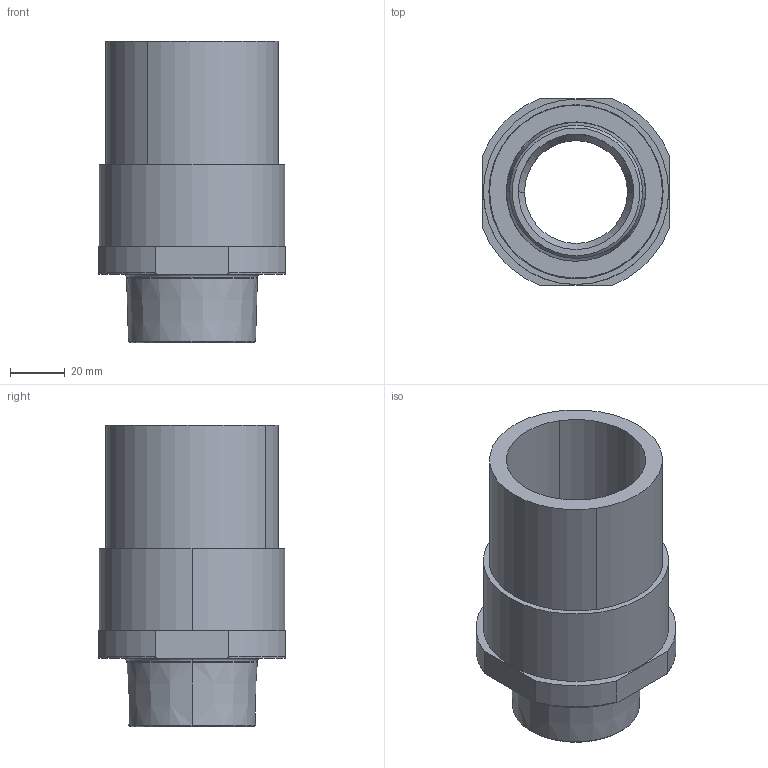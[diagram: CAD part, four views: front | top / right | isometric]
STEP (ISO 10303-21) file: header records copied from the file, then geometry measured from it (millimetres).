
FILE_DESCRIPTION (( 'STEP AP214' ), '1' );
FILE_NAME ('KP_C17-63-54M.step', '2012-09-03T10:40:34', ( 'robinj' ), ( 'Microsoft' ), 'SwSTEP 2.0', 'SolidWorks 2012', '' );
FILE_SCHEMA (( 'AUTOMOTIVE_DESIGN' ));
Length unit declared in the file: millimetre
Products named in the file (1): KP_C17-63-54M
Bounding box: 68 x 68 x 110 mm (x, y, z)
Volume: 151916.5 mm3; surface area: 66404.3 mm2
Topology: 3 solids, 3 shells, 64 faces, 138 edges, 84 vertices
Faces by surface type: cylinder 24, cone 14, plane 14, torus 12
Entity records: 2590 total; most frequent: CARTESIAN_POINT 375, DIRECTION 340, ORIENTED_EDGE 276, AXIS2_PLACEMENT_3D 145, EDGE_CURVE 138, VERTEX_POINT 84, CIRCLE 80, EDGE_LOOP 74
